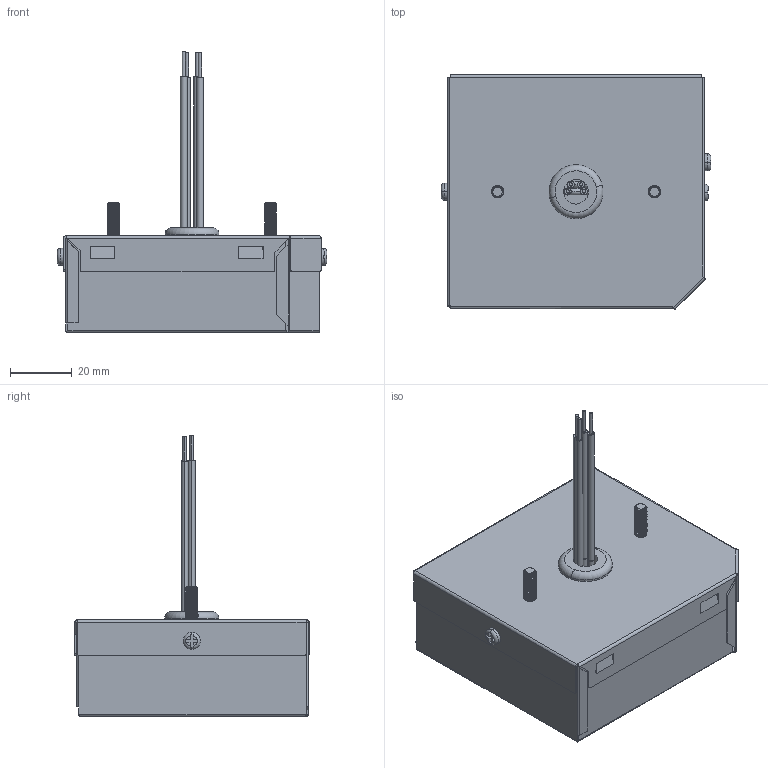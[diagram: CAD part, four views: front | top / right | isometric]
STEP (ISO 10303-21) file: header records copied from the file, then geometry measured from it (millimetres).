
FILE_DESCRIPTION((''),'2;1');
FILE_NAME('SDHV070D20C_ANY_ASM','2019-02-27T',('JACKY.LEE'),(''),'PRO/ENGINEER BY PARAMETRIC TECHNOLOGY CORPORATION, 2009440','PRO/ENGINEER BY PARAMETRIC TECHNOLOGY CORPORATION, 2009440','');
FILE_SCHEMA(('CONFIG_CONTROL_DESIGN'));
Length unit declared in the file: millimetre
Products named in the file (9): M3XL6_SCREW_ANY; INPUT_WHITE_ANY; OUTPUT_RED_ANY; GROMMET_ANY; INPUT_BLACK_ANY; SDHV070D20C_BASE_ANY; OUTPUT_BLUE_ANY; SDHV070D20C_COVER_ANY; SDHV070D20C_ANY_ASM
Assembly tree (10 placements, depth 2):
  SDHV070D20C_ANY_ASM
    M3XL6_SCREW_ANY  x3
    INPUT_WHITE_ANY
    OUTPUT_RED_ANY
    GROMMET_ANY
    INPUT_BLACK_ANY
    SDHV070D20C_BASE_ANY
    OUTPUT_BLUE_ANY
    SDHV070D20C_COVER_ANY
Bounding box: 87.3 x 75.97 x 90.82 mm (x, y, z)
Volume: 19163.7 mm3; surface area: 53449.4 mm2
Topology: 10 solids, 10 shells, 477 faces, 1233 edges, 787 vertices
Faces by surface type: plane 236, cylinder 201, torus 30, cone 6, bspline 4
Entity records: 19332 total; most frequent: CARTESIAN_POINT 8848, ORIENTED_EDGE 2210, DIRECTION 2032, EDGE_CURVE 1105, VERTEX_POINT 703, AXIS2_PLACEMENT_3D 692, VECTOR 648, LINE 648
